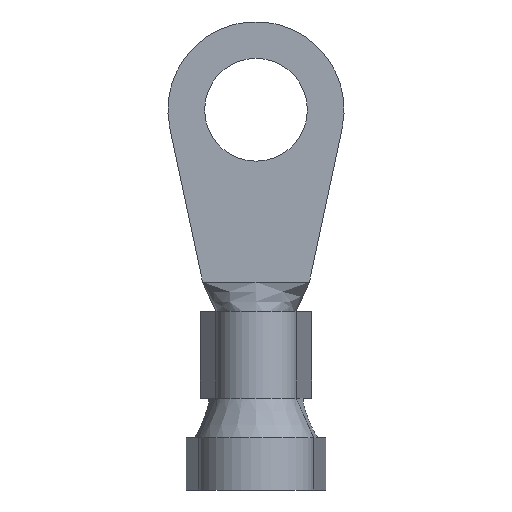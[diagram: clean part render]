
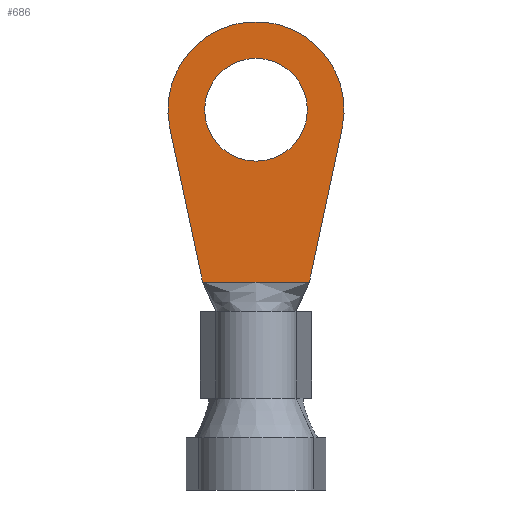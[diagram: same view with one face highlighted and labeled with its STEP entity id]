
A CAD part, front view. The second image highlights one B-rep face of the part: STEP entity #686.
In plain terms, the highlighted planar face has unit normal (0, -1, 0).
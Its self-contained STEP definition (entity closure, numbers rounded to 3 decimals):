
#72=CARTESIAN_POINT('',(0.,0.,0.));
#73=DIRECTION('',(0.,-1.,0.));
#74=DIRECTION('',(1.,0.,0.));
#75=AXIS2_PLACEMENT_3D('',#72,#73,#74);
#77=CARTESIAN_POINT('',(0.,0.,0.));
#78=DIRECTION('',(0.,-1.,0.));
#79=DIRECTION('',(-1.,0.,0.));
#80=AXIS2_PLACEMENT_3D('',#77,#78,#79);
#82=DIRECTION('',(-0.209,0.,0.978));
#83=VECTOR('',#82,8.051);
#84=CARTESIAN_POINT('',(-2.731,0.,-8.814));
#85=LINE('',#84,#83);
#86=CARTESIAN_POINT('',(0.,0.,0.));
#87=DIRECTION('',(0.,1.,0.));
#88=DIRECTION('',(-0.978,0.,-0.209));
#89=AXIS2_PLACEMENT_3D('',#86,#87,#88);
#91=DIRECTION('',(-0.209,0.,-0.978));
#92=VECTOR('',#91,8.051);
#93=CARTESIAN_POINT('',(4.409,0.,-0.94));
#94=LINE('',#93,#92);
#95=DIRECTION('',(-1.,0.,0.));
#96=VECTOR('',#95,2.731);
#97=CARTESIAN_POINT('',(2.731,0.,-8.814));
#98=LINE('',#97,#96);
#99=DIRECTION('',(-1.,0.,0.));
#100=VECTOR('',#99,2.731);
#101=CARTESIAN_POINT('',(0.,0.,-8.814));
#102=LINE('',#101,#100);
#553=CARTESIAN_POINT('',(2.629,0.,0.));
#554=CARTESIAN_POINT('',(-2.629,0.,0.));
#555=VERTEX_POINT('',#553);
#556=VERTEX_POINT('',#554);
#557=CARTESIAN_POINT('',(-4.409,0.,-0.94));
#558=CARTESIAN_POINT('',(4.409,0.,-0.94));
#559=VERTEX_POINT('',#557);
#560=VERTEX_POINT('',#558);
#593=CARTESIAN_POINT('',(2.731,0.,-8.814));
#594=CARTESIAN_POINT('',(0.,0.,-8.814));
#595=VERTEX_POINT('',#593);
#596=VERTEX_POINT('',#594);
#597=CARTESIAN_POINT('',(-2.731,0.,-8.814));
#598=VERTEX_POINT('',#597);
#663=CARTESIAN_POINT('',(0.,0.,0.));
#664=DIRECTION('',(0.,1.,0.));
#665=DIRECTION('',(1.,0.,0.));
#666=AXIS2_PLACEMENT_3D('',#663,#664,#665);
#667=PLANE('',#666);
#669=ORIENTED_EDGE('',*,*,#668,.T.);
#671=ORIENTED_EDGE('',*,*,#670,.T.);
#673=ORIENTED_EDGE('',*,*,#672,.T.);
#675=ORIENTED_EDGE('',*,*,#674,.T.);
#677=ORIENTED_EDGE('',*,*,#676,.T.);
#678=EDGE_LOOP('',(#669,#671,#673,#675,#677));
#679=FACE_OUTER_BOUND('',#678,.F.);
#681=ORIENTED_EDGE('',*,*,#680,.T.);
#683=ORIENTED_EDGE('',*,*,#682,.T.);
#684=EDGE_LOOP('',(#681,#683));
#685=FACE_BOUND('',#684,.F.);
#686=ADVANCED_FACE('',(#679,#685),#667,.F.);
#76=CIRCLE('',#75,2.629);
#81=CIRCLE('',#80,2.629);
#90=CIRCLE('',#89,4.509);
#668=EDGE_CURVE('',#598,#559,#85,.T.);
#670=EDGE_CURVE('',#559,#560,#90,.T.);
#672=EDGE_CURVE('',#560,#595,#94,.T.);
#674=EDGE_CURVE('',#595,#596,#98,.T.);
#676=EDGE_CURVE('',#596,#598,#102,.T.);
#680=EDGE_CURVE('',#555,#556,#76,.T.);
#682=EDGE_CURVE('',#556,#555,#81,.T.);
